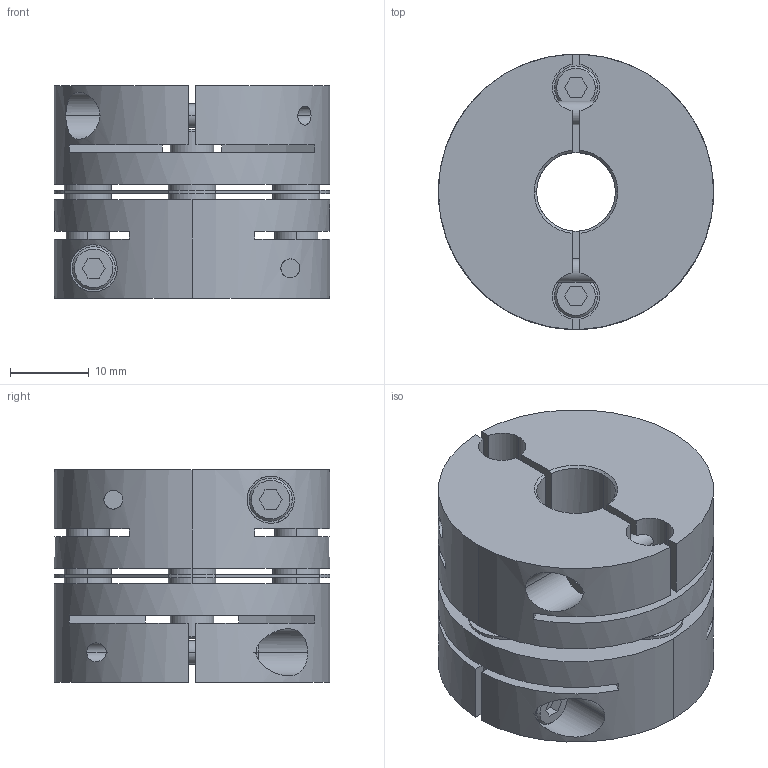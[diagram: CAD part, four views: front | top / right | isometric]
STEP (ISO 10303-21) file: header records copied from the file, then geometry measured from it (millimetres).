
FILE_DESCRIPTION((''),'2;1');
FILE_NAME('LAS-35C-10×14.stp','2011-08-10T16:43:56',(''),(''),'AutoCAD STEP 2000i','AutoCAD 2000i',', , ');
FILE_SCHEMA(('CONFIG_CONTROL_DESIGN'));
Length unit declared in the file: millimetre
Products named in the file (6): LAS-35C-8×14; 忣兜1; LA-3502-D14; LA-3502-D08-1; LA-3502-D08; LAS35-ITA
Assembly tree (5 placements, depth 2):
  LAS-35C-8×14
    忣兜1
    LA-3502-D14
    LA-3502-D08-1
    LA-3502-D08
    LAS35-ITA
Bounding box: 35 x 35 x 27 mm (x, y, z)
Volume: 19089.1 mm3; surface area: 11893.1 mm2
Topology: 1 solids, 1 shells, 236 faces, 624 edges, 408 vertices
Faces by surface type: plane 112, cylinder 96, cone 28
Entity records: 8251 total; most frequent: CARTESIAN_POINT 2068, DIRECTION 1288, ORIENTED_EDGE 1248, EDGE_CURVE 624, AXIS2_PLACEMENT_3D 470, VERTEX_POINT 408, VECTOR 348, LINE 348
